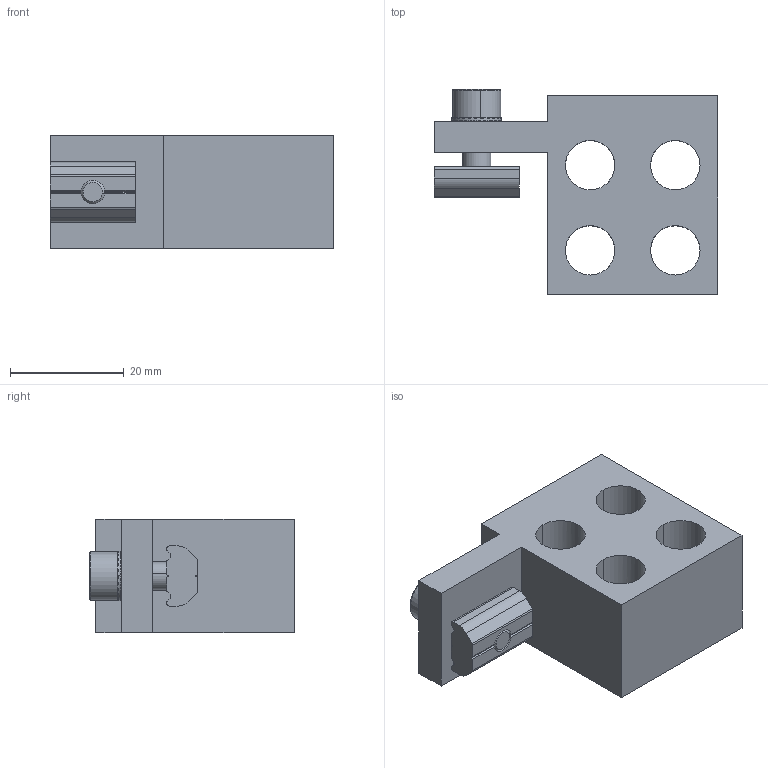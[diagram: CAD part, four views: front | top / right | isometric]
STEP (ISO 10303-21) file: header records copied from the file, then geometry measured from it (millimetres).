
FILE_DESCRIPTION (( 'STEP AP214' ), '1' );
FILE_NAME ('SMB-9G18T.STEP', '2023-01-06T06:46:40', ( 'Windows User' ), ( 'P R C' ), 'SwSTEP 2.0', 'SolidWorks 2018', '' );
FILE_SCHEMA (( 'AUTOMOTIVE_DESIGN' ));
Length unit declared in the file: millimetre
Products named in the file (1): SMB-9G18T
Bounding box: 50 x 36.1 x 20 mm (x, y, z)
Volume: 17629.1 mm3; surface area: 9336.8 mm2
Topology: 4 solids, 4 shells, 279 faces, 812 edges, 540 vertices
Faces by surface type: plane 237, cylinder 38, cone 2, bspline 2
Entity records: 12834 total; most frequent: CARTESIAN_POINT 2095, ORIENTED_EDGE 1624, DIRECTION 1598, EDGE_CURVE 812, VERTEX_POINT 540, AXIS2_PLACEMENT_3D 536, LINE 526, VECTOR 526
